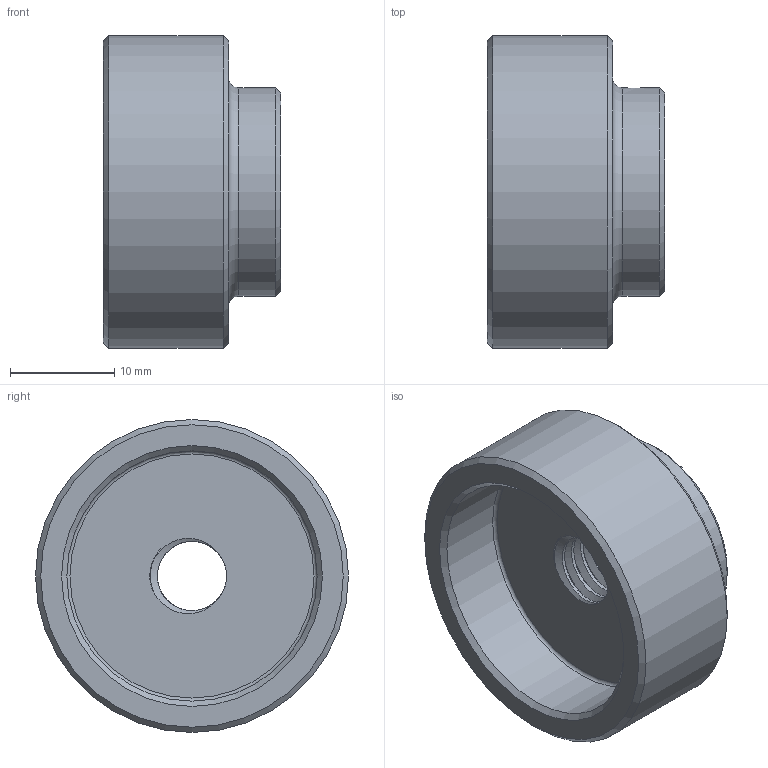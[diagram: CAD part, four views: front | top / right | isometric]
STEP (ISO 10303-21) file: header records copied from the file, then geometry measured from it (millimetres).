
FILE_DESCRIPTION(('STEP AP203'), '1');
FILE_NAME('À00080.1081', '2025-03-13T10:08:14', ('1'), (''), 'C3D Converter', 'C3D Toolkit', '');
FILE_SCHEMA(('CONFIG_CONTROL_DESIGN'));
Length unit declared in the file: millimetre
Bounding box: 17 x 30 x 30 mm (x, y, z)
Volume: 6421.8 mm3; surface area: 3561.8 mm2
Topology: 1 solids, 1 shells, 29 faces, 73 edges, 50 vertices
Faces by surface type: cylinder 10, bspline 7, cone 6, plane 4, torus 2
Full cylindrical faces by diameter (mm): 1.9 x1, 20 x1, 24 x1, 30 x1
Entity records: 7766 total; most frequent: CARTESIAN_POINT 6955, ORIENTED_EDGE 116, DIRECTION 78, EDGE_CURVE 58, EDGE_LOOP 44, VERTEX_POINT 44, B_SPLINE_CURVE_WITH_KNOTS 40, AXIS2_PLACEMENT_3D 37
